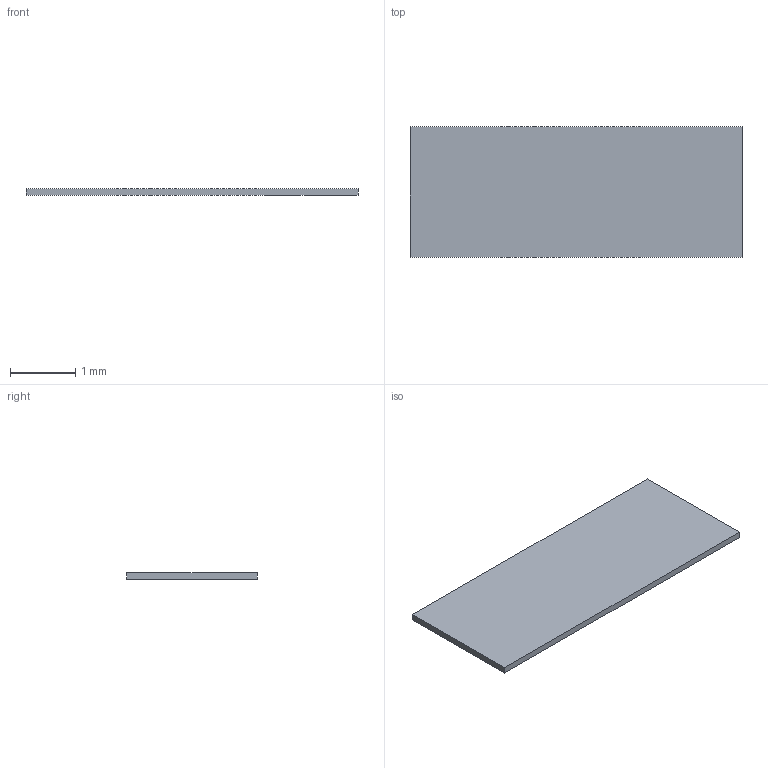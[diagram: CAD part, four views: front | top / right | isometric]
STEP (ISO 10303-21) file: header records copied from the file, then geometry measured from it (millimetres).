
FILE_DESCRIPTION(/* description */ ('STEP AP242 Edition 2','CAx-IF Rec.Pracs.---Representation and Presentation of Product Manufacturing Information (PMI)---4.0---2014-10-13','CAx-IF Rec.Pracs.---3D Tessellated Geometry---0.4---2014-09-14','2;1','CAx-IF Rec.Pracs.---User Defined Attributes---1.5---2016-08-15'),/* implementation_level */ '2;1');
FILE_NAME(/* name */ 'Assembly 1 - RES-ARRAY-SMD_1206-8P-L5.1-W3.1-BL~RES-ARRAY-SMD_1206-8P-L5.1-W3.1-H0.55-BL~nxQB_1 (9)',/* time_stamp */ '2026-04-02T09:55:20Z',/* author */ (''),/* organization */ (''),/* preprocessor_version */ 'ST-DEVELOPER v20',/* originating_system */ 'ONSHAPE BY PTC INC, 1.212',/* authorisation */ ' ');
FILE_SCHEMA (('AP242_MANAGED_MODEL_BASED_3D_ENGINEERING_MIM_LF { 1 0 10303 442 3 1 4 }'));
Length unit declared in the file: metre
Products named in the file (1): RES-ARRAY-SMD_1206-8P-L5.1-W3.1-BL~RES-ARRAY-SMD_1206-8P-L5.1-W3.1-H0.
55-BL~nxQB_1
Bounding box: 5.1 x 2 x 0.1 mm (x, y, z)
Volume: 1 mm3; surface area: 21.8 mm2
Topology: 1 solids, 1 shells, 230 faces, 609 edges, 400 vertices
Faces by surface type: plane 132, bspline 50, cylinder 46, sphere 2
Entity records: 9010 total; most frequent: CARTESIAN_POINT 1977, ORIENTED_EDGE 1218, DIRECTION 940, EDGE_CURVE 609, VERTEX_POINT 400, LINE 382, VECTOR 382, AXIS2_PLACEMENT_3D 279
